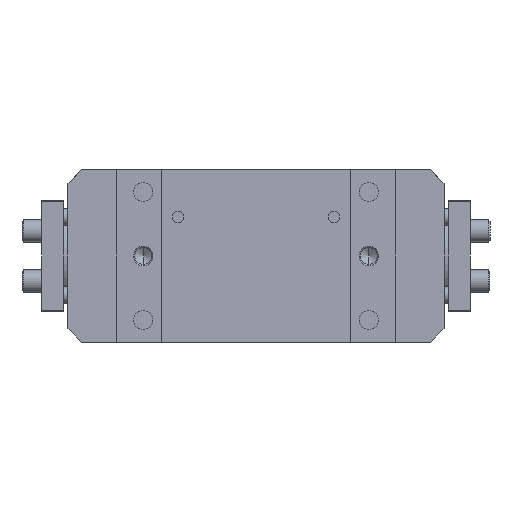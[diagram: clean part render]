
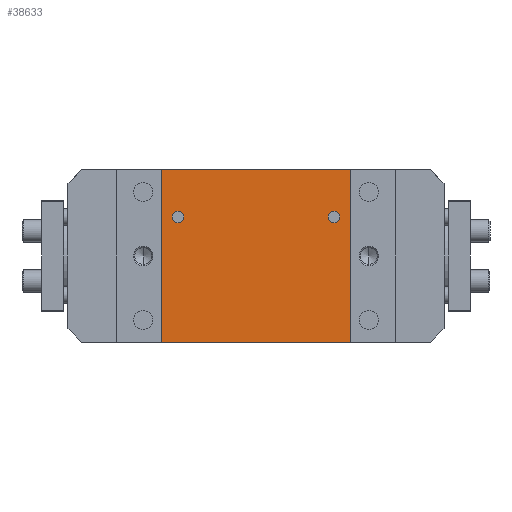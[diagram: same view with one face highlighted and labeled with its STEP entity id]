
A CAD part, front view. The second image highlights one B-rep face of the part: STEP entity #38633.
In plain terms, the highlighted planar face has unit normal (0, -1, 0).
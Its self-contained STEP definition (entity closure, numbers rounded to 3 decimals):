
#962 = LINE ( 'NONE', #37529, #9970 ) ;
#1146 = DIRECTION ( 'NONE',  ( 0., 1., 0. ) ) ;
#1203 = LINE ( 'NONE', #22381, #21646 ) ;
#1502 = CARTESIAN_POINT ( 'NONE',  ( 0., 0., -31. ) ) ;
#2058 = VERTEX_POINT ( 'NONE', #42044 ) ;
#2687 = AXIS2_PLACEMENT_3D ( 'NONE', #6557, #33416, #10422 ) ;
#2912 = ORIENTED_EDGE ( 'NONE', *, *, #36528, .T. ) ;
#3005 = CARTESIAN_POINT ( 'NONE',  ( 0., 0., -64.5 ) ) ;
#3446 = ORIENTED_EDGE ( 'NONE', *, *, #35646, .T. ) ;
#4030 = CARTESIAN_POINT ( 'NONE',  ( 34., 0., -64.5 ) ) ;
#4093 = ORIENTED_EDGE ( 'NONE', *, *, #11429, .T. ) ;
#5697 = LINE ( 'NONE', #26251, #35123 ) ;
#5821 = LINE ( 'NONE', #17367, #35250 ) ;
#6557 = CARTESIAN_POINT ( 'NONE',  ( 28., 0., 14. ) ) ;
#7647 = VECTOR ( 'NONE', #22993, 1000. ) ;
#8985 = CARTESIAN_POINT ( 'NONE',  ( -28., 0., 14. ) ) ;
#9084 = DIRECTION ( 'NONE',  ( 1., 0., 0. ) ) ;
#9871 = FACE_BOUND ( 'NONE', #45361, .T. ) ;
#9970 = VECTOR ( 'NONE', #41415, 1000. ) ;
#10422 = DIRECTION ( 'NONE',  ( 0., 0., -1. ) ) ;
#10736 = ORIENTED_EDGE ( 'NONE', *, *, #38370, .T. ) ;
#10784 = DIRECTION ( 'NONE',  ( -0.707, 0., 0.707 ) ) ;
#11429 = EDGE_CURVE ( 'NONE', #33769, #16529, #17856, .T. ) ;
#11573 = VERTEX_POINT ( 'NONE', #32538 ) ;
#11750 = CARTESIAN_POINT ( 'NONE',  ( -33.5, 0., 31. ) ) ;
#11800 = CARTESIAN_POINT ( 'NONE',  ( -34., 0., 30.5 ) ) ;
#12051 = EDGE_CURVE ( 'NONE', #43767, #33769, #5821, .T. ) ;
#12684 = VECTOR ( 'NONE', #15593, 1000. ) ;
#12837 = DIRECTION ( 'NONE',  ( 0., 0., -1. ) ) ;
#13638 = EDGE_CURVE ( 'NONE', #16617, #11573, #16548, .T. ) ;
#13703 = ORIENTED_EDGE ( 'NONE', *, *, #37097, .T. ) ;
#14226 = ORIENTED_EDGE ( 'NONE', *, *, #46894, .T. ) ;
#15593 = DIRECTION ( 'NONE',  ( -0.707, 0., -0.707 ) ) ;
#16529 = VERTEX_POINT ( 'NONE', #48967 ) ;
#16548 = CIRCLE ( 'NONE', #23523, 2.1 ) ;
#16617 = VERTEX_POINT ( 'NONE', #19196 ) ;
#17135 = LINE ( 'NONE', #48894, #26135 ) ;
#17205 = DIRECTION ( 'NONE',  ( 0.707, 0., 0.707 ) ) ;
#17367 = CARTESIAN_POINT ( 'NONE',  ( 33.5, 0., -31. ) ) ;
#17653 = CARTESIAN_POINT ( 'NONE',  ( 33.5, 0., 31. ) ) ;
#17856 = LINE ( 'NONE', #4030, #7647 ) ;
#17862 = VERTEX_POINT ( 'NONE', #34310 ) ;
#19196 = CARTESIAN_POINT ( 'NONE',  ( -28., 0., 11.9 ) ) ;
#19465 = VERTEX_POINT ( 'NONE', #11800 ) ;
#19575 = LINE ( 'NONE', #1502, #28585 ) ;
#19863 = VERTEX_POINT ( 'NONE', #30391 ) ;
#20304 = ORIENTED_EDGE ( 'NONE', *, *, #41117, .T. ) ;
#21646 = VECTOR ( 'NONE', #10784, 1000. ) ;
#21908 = AXIS2_PLACEMENT_3D ( 'NONE', #24156, #1146, #28021 ) ;
#21966 = DIRECTION ( 'NONE',  ( 0., 1., 0. ) ) ;
#22381 = CARTESIAN_POINT ( 'NONE',  ( 34., 0., 30.5 ) ) ;
#22506 = DIRECTION ( 'NONE',  ( 0., -1., 0. ) ) ;
#22669 = EDGE_CURVE ( 'NONE', #11573, #16617, #29501, .T. ) ;
#22993 = DIRECTION ( 'NONE',  ( 0., 0., 1. ) ) ;
#23198 = CARTESIAN_POINT ( 'NONE',  ( -33.5, 0., -31. ) ) ;
#23523 = AXIS2_PLACEMENT_3D ( 'NONE', #8985, #35836, #12837 ) ;
#23633 = CARTESIAN_POINT ( 'NONE',  ( 28., 0., 11.9 ) ) ;
#23852 = ORIENTED_EDGE ( 'NONE', *, *, #22669, .T. ) ;
#24156 = CARTESIAN_POINT ( 'NONE',  ( 28., 0., 14. ) ) ;
#24303 = VERTEX_POINT ( 'NONE', #23633 ) ;
#25048 = EDGE_CURVE ( 'NONE', #16529, #48240, #1203, .T. ) ;
#26135 = VECTOR ( 'NONE', #33573, 1000. ) ;
#26251 = CARTESIAN_POINT ( 'NONE',  ( -34., 0., -30.5 ) ) ;
#27508 = CIRCLE ( 'NONE', #2687, 2.1 ) ;
#28021 = DIRECTION ( 'NONE',  ( 0., 0., -1. ) ) ;
#28585 = VECTOR ( 'NONE', #9084, 1000. ) ;
#29501 = CIRCLE ( 'NONE', #47099, 2.1 ) ;
#30125 = DIRECTION ( 'NONE',  ( 0.707, 0., -0.707 ) ) ;
#30391 = CARTESIAN_POINT ( 'NONE',  ( 28., 0., 16.1 ) ) ;
#31076 = ORIENTED_EDGE ( 'NONE', *, *, #13638, .T. ) ;
#32538 = CARTESIAN_POINT ( 'NONE',  ( -28., 0., 16.1 ) ) ;
#33105 = LINE ( 'NONE', #11750, #12684 ) ;
#33416 = DIRECTION ( 'NONE',  ( 0., 1., 0. ) ) ;
#33573 = DIRECTION ( 'NONE',  ( -1., 0., 0. ) ) ;
#33758 = PLANE ( 'NONE',  #38593 ) ;
#33769 = VERTEX_POINT ( 'NONE', #47793 ) ;
#34310 = CARTESIAN_POINT ( 'NONE',  ( -34., 0., -30.5 ) ) ;
#34762 = EDGE_LOOP ( 'NONE', ( #20304, #14226 ) ) ;
#35123 = VECTOR ( 'NONE', #30125, 1000. ) ;
#35250 = VECTOR ( 'NONE', #17205, 1000. ) ;
#35646 = EDGE_CURVE ( 'NONE', #48240, #2058, #17135, .T. ) ;
#35836 = DIRECTION ( 'NONE',  ( 0., 1., 0. ) ) ;
#36028 = CARTESIAN_POINT ( 'NONE',  ( 33.5, 0., -31. ) ) ;
#36528 = EDGE_CURVE ( 'NONE', #19465, #17862, #962, .T. ) ;
#37097 = EDGE_CURVE ( 'NONE', #45638, #43767, #19575, .T. ) ;
#37529 = CARTESIAN_POINT ( 'NONE',  ( -34., 0., -64.5 ) ) ;
#38370 = EDGE_CURVE ( 'NONE', #17862, #45638, #5697, .T. ) ;
#38593 = AXIS2_PLACEMENT_3D ( 'NONE', #3005, #22506, #49401 ) ;
#38633 = ADVANCED_FACE ( 'NONE', ( #49565, #40532, #9871 ), #33758, .T. ) ;
#40532 = FACE_BOUND ( 'NONE', #34762, .T. ) ;
#40770 = ORIENTED_EDGE ( 'NONE', *, *, #12051, .T. ) ;
#40807 = ORIENTED_EDGE ( 'NONE', *, *, #43225, .T. ) ;
#41117 = EDGE_CURVE ( 'NONE', #24303, #19863, #43457, .T. ) ;
#41353 = ORIENTED_EDGE ( 'NONE', *, *, #25048, .T. ) ;
#41415 = DIRECTION ( 'NONE',  ( 0., 0., -1. ) ) ;
#41520 = EDGE_LOOP ( 'NONE', ( #40807, #2912, #10736, #13703, #40770, #4093, #41353, #3446 ) ) ;
#42044 = CARTESIAN_POINT ( 'NONE',  ( -33.5, 0., 31. ) ) ;
#43225 = EDGE_CURVE ( 'NONE', #2058, #19465, #33105, .T. ) ;
#43457 = CIRCLE ( 'NONE', #21908, 2.1 ) ;
#43767 = VERTEX_POINT ( 'NONE', #36028 ) ;
#44989 = CARTESIAN_POINT ( 'NONE',  ( -28., 0., 14. ) ) ;
#45361 = EDGE_LOOP ( 'NONE', ( #31076, #23852 ) ) ;
#45638 = VERTEX_POINT ( 'NONE', #23198 ) ;
#46894 = EDGE_CURVE ( 'NONE', #19863, #24303, #27508, .T. ) ;
#47099 = AXIS2_PLACEMENT_3D ( 'NONE', #44989, #21966, #48860 ) ;
#47793 = CARTESIAN_POINT ( 'NONE',  ( 34., 0., -30.5 ) ) ;
#48240 = VERTEX_POINT ( 'NONE', #17653 ) ;
#48860 = DIRECTION ( 'NONE',  ( 0., 0., -1. ) ) ;
#48894 = CARTESIAN_POINT ( 'NONE',  ( 0., 0., 31. ) ) ;
#48967 = CARTESIAN_POINT ( 'NONE',  ( 34., 0., 30.5 ) ) ;
#49401 = DIRECTION ( 'NONE',  ( 0., 0., -1. ) ) ;
#49565 = FACE_OUTER_BOUND ( 'NONE', #41520, .T. ) ;
